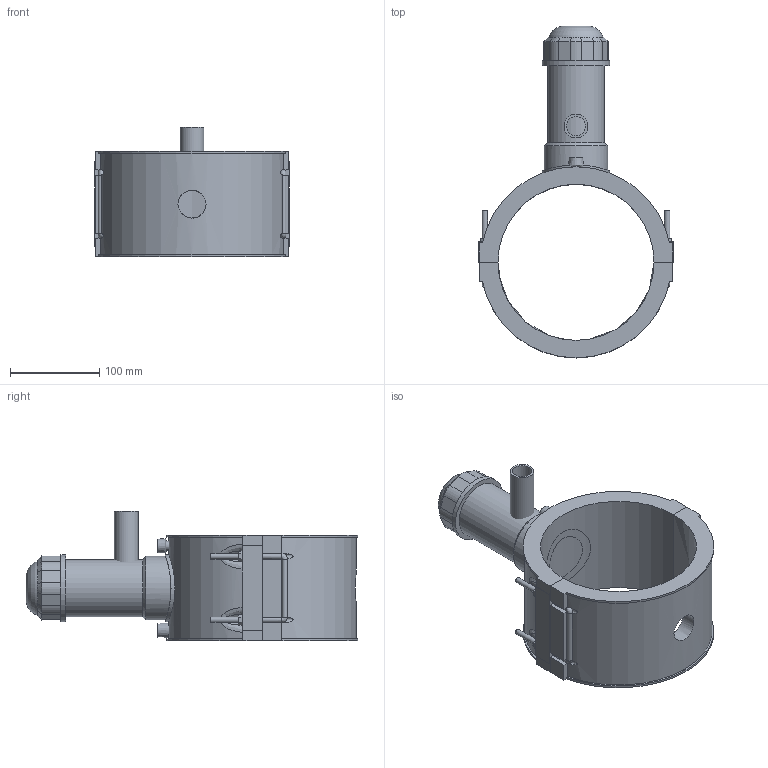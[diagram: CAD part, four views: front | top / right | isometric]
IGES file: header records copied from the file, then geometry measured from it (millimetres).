
Global section: file name: 5963DBP3060007.ipt; native system: Autodesk Inventor 2019; preprocessor: unknown; author: KIM; date: 20210830.101649; units: inch
Bounding box: 217.9 x 371.08 x 145.16 mm (x, y, z)
Volume: 1639441.9 mm3; surface area: 272374.2 mm2
Topology: 3 solids, 4 shells, 200 faces, 501 edges, 325 vertices
Faces by surface type: plane 125, cylinder 35, revolution 21, cone 15, bspline 4
Full cylindrical faces by diameter (mm): 4 x2, 6 x8, 26.6 x1, 63.78 x1, 71.283 x1, 75.035 x2
